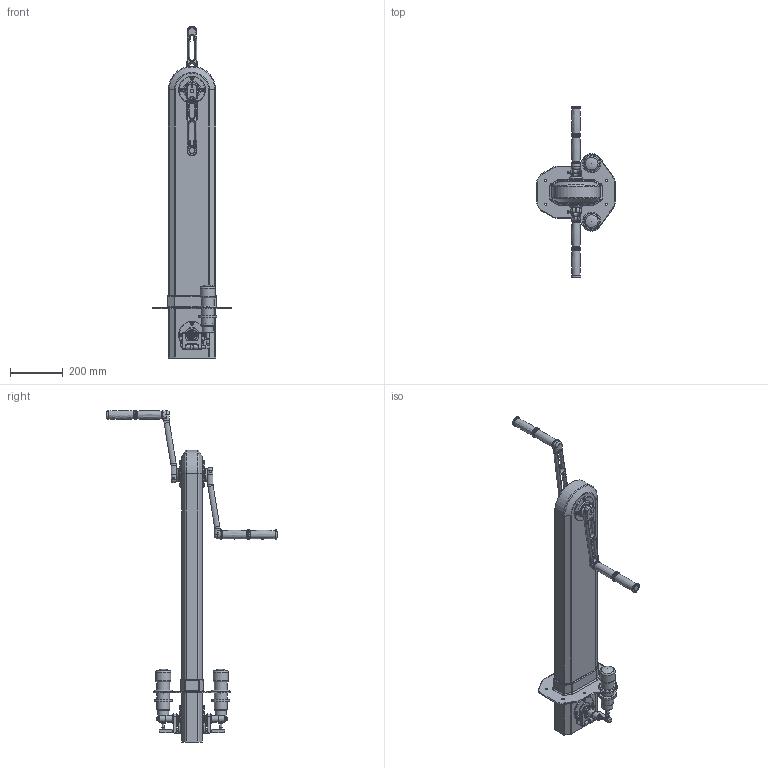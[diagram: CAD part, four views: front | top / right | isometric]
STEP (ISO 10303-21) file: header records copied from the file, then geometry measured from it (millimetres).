
FILE_DESCRIPTION(/* description */ (''),/* implementation_level */ '2;1');
FILE_NAME(/* name */ '\\SERVER2K12\Disegni CAD\Cad Library\3D - STP\Winches\C001+C002+C003.stp',/* time_stamp */ '2016-11-25T11:23:37+01:00',/* author */ ('gianni'),/* organization */ (''),/* preprocessor_version */ 'ST-DEVELOPER v16.5',/* originating_system */ 'Autodesk Inventor 2017',/* authorisation */ '');
FILE_SCHEMA (('AUTOMOTIVE_DESIGN { 1 0 10303 214 3 1 1 }'));
Length unit declared in the file: millimetre
Products named in the file (1): C001+C002+C003
Bounding box: 300 x 647.82 x 1264.3 mm (x, y, z)
Volume: 16826445.7 mm3; surface area: 900911.4 mm2
Topology: 1 solids, 70 shells, 1711 faces, 4141 edges, 2664 vertices
Faces by surface type: plane 779, cylinder 497, cone 201, torus 168, bspline 42, sphere 24
Full cylindrical faces by diameter (mm): 2 x8, 3 x10, 3.2 x8, 4.05 x4, 4.134 x4, 5 x12, 5.5 x4, 6 x22, 6.25 x4, 6.5 x20, 7 x4, 7.2 x2, 7.5 x2, 8 x12, 8.25 x4, 8.4 x4, 8.5 x6, 9.5 x2, 10 x4, 11.6 x2, 12 x44, 13 x4, 13.2 x22, 16 x4, 20 x2, 23 x2, 24.4 x4, 25 x4, 35.8 x2, 36 x2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
Entity records: 49772 total; most frequent: CARTESIAN_POINT 12099, DIRECTION 8124, ORIENTED_EDGE 6992, EDGE_CURVE 3496, AXIS2_PLACEMENT_3D 3362, VERTEX_POINT 2477, EDGE_LOOP 2427, FACE_OUTER_BOUND 1711
